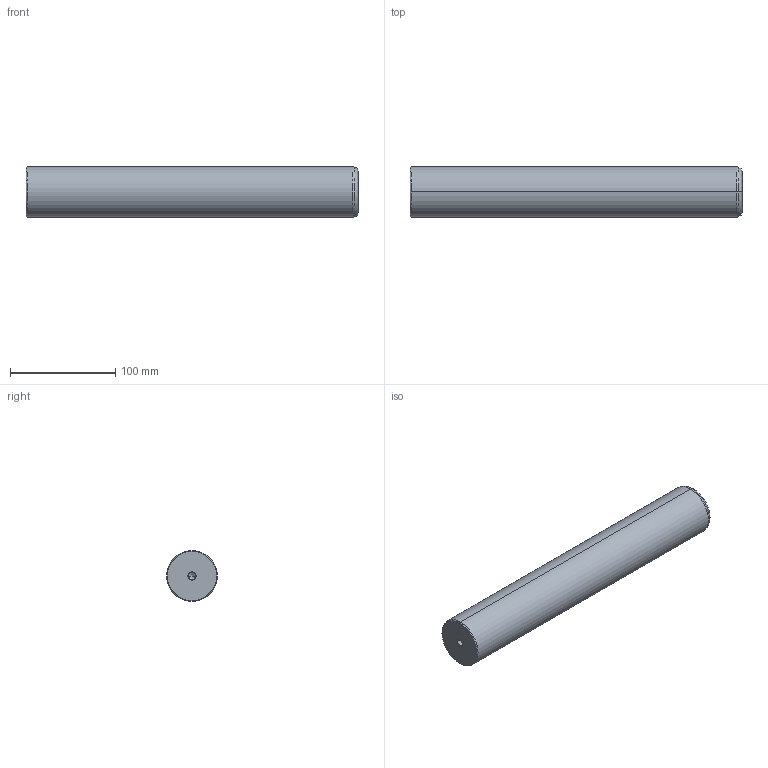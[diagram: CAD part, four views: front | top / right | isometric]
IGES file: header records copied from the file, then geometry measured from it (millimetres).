
Start section: START RECORD GO HERE.
Global section: file name: 720-48x315.igs; native system: DASSAULT SYSTEMES CATIA V5 R20 - www.3ds.com; preprocessor: CATIA Version 5 Release 20 ; author: Utente; organization: NB04-ASUS; date: 20201230.224912; units: millimetre
Bounding box: 315 x 48 x 48 mm (x, y, z)
Surface area: 51728.3 mm2 (no closed solid volume)
Topology: 0 solids, 0 shells, 22 faces, 120 edges, 116 vertices
Faces by surface type: revolution 20, plane 2
